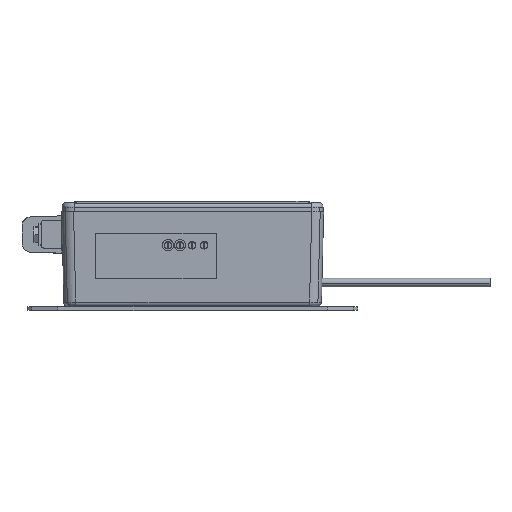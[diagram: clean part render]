
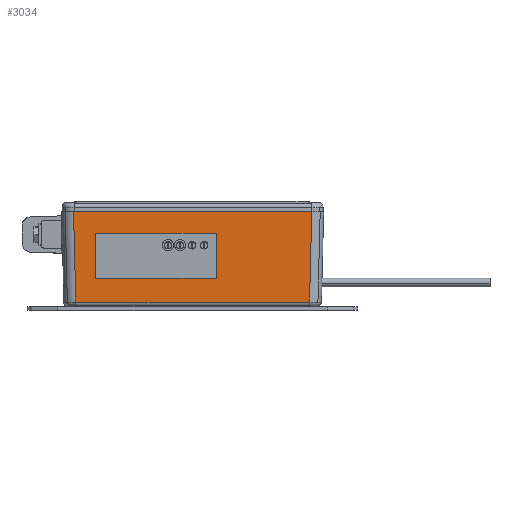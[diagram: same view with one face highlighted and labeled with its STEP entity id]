
A CAD part, top view. The second image highlights one B-rep face of the part: STEP entity #3034.
In plain terms, the highlighted planar face has unit normal (0, -0.025, 1) as drawn and (0, -1, -0.025) by its records, which use the part's own axes.
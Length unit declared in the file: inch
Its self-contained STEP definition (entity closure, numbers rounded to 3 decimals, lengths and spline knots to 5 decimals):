
#35 = AXIS2_PLACEMENT_3D ( 'NONE', #29882, #11568, #32933 ) ;
#218 = DIRECTION ( 'NONE',  ( -1., 0., 0. ) ) ;
#932 = VERTEX_POINT ( 'NONE', #29022 ) ;
#2141 = VERTEX_POINT ( 'NONE', #33442 ) ;
#2162 = AXIS2_PLACEMENT_3D ( 'NONE', #24534, #6125, #27594 ) ;
#2613 = CARTESIAN_POINT ( 'NONE',  ( 0.1898, -1.60983, -0.48935 ) ) ;
#3034 = ADVANCED_FACE ( 'NONE', ( #15071, #30348, #31298, #38395, #6878 ), #20602, .T. ) ;
#3287 = VERTEX_POINT ( 'NONE', #3391 ) ;
#3296 = VERTEX_POINT ( 'NONE', #15751 ) ;
#3391 = CARTESIAN_POINT ( 'NONE',  ( -0.2102, -1.60983, -0.48935 ) ) ;
#3683 = CARTESIAN_POINT ( 'NONE',  ( 1.97718, -1.62082, -0.04933 ) ) ;
#3986 = ORIENTED_EDGE ( 'NONE', *, *, #23053, .F. ) ;
#4119 = ORIENTED_EDGE ( 'NONE', *, *, #7400, .F. ) ;
#4493 = CARTESIAN_POINT ( 'NONE',  ( -0.0102, -1.60983, -0.48935 ) ) ;
#4778 = DIRECTION ( 'NONE',  ( 0., -1., -0.025 ) ) ;
#5163 = CARTESIAN_POINT ( 'NONE',  ( -2.1752, -1.62205, 0. ) ) ;
#5200 = VECTOR ( 'NONE', #9406, 39.37008 ) ;
#5300 = EDGE_LOOP ( 'NONE', ( #29110, #8611 ) ) ;
#5689 = DIRECTION ( 'NONE',  ( 0., -1., -0.025 ) ) ;
#6125 = DIRECTION ( 'NONE',  ( 0., -1., -0.025 ) ) ;
#6179 = EDGE_CURVE ( 'NONE', #932, #38535, #16824, .T. ) ;
#6444 = DIRECTION ( 'NONE',  ( -1., 0., 0. ) ) ;
#6506 = AXIS2_PLACEMENT_3D ( 'NONE', #24075, #5689, #27161 ) ;
#6729 = DIRECTION ( 'NONE',  ( -0.025, 0.025, -0.999 ) ) ;
#6774 = LINE ( 'NONE', #15534, #38298 ) ;
#6878 = FACE_OUTER_BOUND ( 'NONE', #35936, .T. ) ;
#6901 = VECTOR ( 'NONE', #6729, 39.37008 ) ;
#7400 = EDGE_CURVE ( 'NONE', #28311, #9149, #31982, .T. ) ;
#8394 = DIRECTION ( 'NONE',  ( 0., -1., -0.025 ) ) ;
#8611 = ORIENTED_EDGE ( 'NONE', *, *, #31483, .F. ) ;
#9149 = VERTEX_POINT ( 'NONE', #4493 ) ;
#9243 = EDGE_LOOP ( 'NONE', ( #4119, #3986 ) ) ;
#9406 = DIRECTION ( 'NONE',  ( -0.025, -0.025, 0.999 ) ) ;
#9744 = EDGE_LOOP ( 'NONE', ( #18241, #31520 ) ) ;
#9889 = CIRCLE ( 'NONE', #35, 0.0645 ) ;
#10801 = VERTEX_POINT ( 'NONE', #35257 ) ;
#11323 = AXIS2_PLACEMENT_3D ( 'NONE', #26838, #8394, #29835 ) ;
#11568 = DIRECTION ( 'NONE',  ( 0., -1., -0.025 ) ) ;
#11882 = EDGE_CURVE ( 'NONE', #33210, #21240, #6774, .T. ) ;
#12422 = EDGE_CURVE ( 'NONE', #3296, #12777, #25041, .T. ) ;
#12500 = CARTESIAN_POINT ( 'NONE',  ( -1.97803, -1.62166, -0.01531 ) ) ;
#12777 = VERTEX_POINT ( 'NONE', #29227 ) ;
#12890 = DIRECTION ( 'NONE',  ( 0., -1., -0.025 ) ) ;
#13482 = CARTESIAN_POINT ( 'NONE',  ( 0.1898, -1.60822, -0.55383 ) ) ;
#13628 = VECTOR ( 'NONE', #6444, 39.37008 ) ;
#14043 = ORIENTED_EDGE ( 'NONE', *, *, #20839, .F. ) ;
#15071 = FACE_BOUND ( 'NONE', #28433, .T. ) ;
#15534 = CARTESIAN_POINT ( 'NONE',  ( -1.0876, -1.58465, -1.49803 ) ) ;
#15751 = CARTESIAN_POINT ( 'NONE',  ( -0.4102, -1.60661, -0.61831 ) ) ;
#15897 = CIRCLE ( 'NONE', #33610, 0.0645 ) ;
#16605 = DIRECTION ( 'NONE',  ( 0., 0.025, -1. ) ) ;
#16824 = CIRCLE ( 'NONE', #16966, 0.0645 ) ;
#16966 = AXIS2_PLACEMENT_3D ( 'NONE', #13482, #34837, #16605 ) ;
#17124 = CARTESIAN_POINT ( 'NONE',  ( -0.0102, -1.60822, -0.55383 ) ) ;
#18097 = EDGE_CURVE ( 'NONE', #10801, #2141, #38900, .T. ) ;
#18241 = ORIENTED_EDGE ( 'NONE', *, *, #21773, .F. ) ;
#19943 = AXIS2_PLACEMENT_3D ( 'NONE', #5163, #35728, #26781 ) ;
#20190 = DIRECTION ( 'NONE',  ( 0., 0.025, -1. ) ) ;
#20283 = ORIENTED_EDGE ( 'NONE', *, *, #12422, .F. ) ;
#20602 = PLANE ( 'NONE',  #19943 ) ;
#20839 = EDGE_CURVE ( 'NONE', #12777, #3296, #15897, .T. ) ;
#21136 = AXIS2_PLACEMENT_3D ( 'NONE', #31200, #12890, #34244 ) ;
#21240 = VERTEX_POINT ( 'NONE', #21797 ) ;
#21767 = CARTESIAN_POINT ( 'NONE',  ( 2.1752, -1.62205, 0. ) ) ;
#21773 = EDGE_CURVE ( 'NONE', #31502, #3287, #32537, .T. ) ;
#21797 = CARTESIAN_POINT ( 'NONE',  ( -1.94101, -1.58465, -1.49803 ) ) ;
#23053 = EDGE_CURVE ( 'NONE', #9149, #28311, #35825, .T. ) ;
#23168 = CARTESIAN_POINT ( 'NONE',  ( -0.4102, -1.60822, -0.55383 ) ) ;
#23460 = ORIENTED_EDGE ( 'NONE', *, *, #33771, .F. ) ;
#24075 = CARTESIAN_POINT ( 'NONE',  ( -0.4102, -1.60822, -0.55383 ) ) ;
#24534 = CARTESIAN_POINT ( 'NONE',  ( -0.0102, -1.60822, -0.55383 ) ) ;
#25041 = CIRCLE ( 'NONE', #6506, 0.0645 ) ;
#26262 = DIRECTION ( 'NONE',  ( 0., 0.025, -1. ) ) ;
#26781 = DIRECTION ( 'NONE',  ( 0., 0.025, -1. ) ) ;
#26838 = CARTESIAN_POINT ( 'NONE',  ( 0.1898, -1.60822, -0.55383 ) ) ;
#26868 = CARTESIAN_POINT ( 'NONE',  ( -0.0102, -1.60661, -0.61831 ) ) ;
#27000 = AXIS2_PLACEMENT_3D ( 'NONE', #17124, #38363, #20190 ) ;
#27161 = DIRECTION ( 'NONE',  ( 0., 0.025, -1. ) ) ;
#27342 = CARTESIAN_POINT ( 'NONE',  ( 1.94101, -1.58465, -1.49803 ) ) ;
#27594 = DIRECTION ( 'NONE',  ( 0., 0.025, -1. ) ) ;
#28311 = VERTEX_POINT ( 'NONE', #26868 ) ;
#28433 = EDGE_LOOP ( 'NONE', ( #20283, #14043 ) ) ;
#29022 = CARTESIAN_POINT ( 'NONE',  ( 0.1898, -1.60661, -0.61831 ) ) ;
#29110 = ORIENTED_EDGE ( 'NONE', *, *, #6179, .F. ) ;
#29227 = CARTESIAN_POINT ( 'NONE',  ( -0.4102, -1.60983, -0.48935 ) ) ;
#29835 = DIRECTION ( 'NONE',  ( 0., 0.025, -1. ) ) ;
#29882 = CARTESIAN_POINT ( 'NONE',  ( -0.2102, -1.60822, -0.55383 ) ) ;
#30348 = FACE_BOUND ( 'NONE', #9744, .T. ) ;
#30605 = ORIENTED_EDGE ( 'NONE', *, *, #18097, .T. ) ;
#31200 = CARTESIAN_POINT ( 'NONE',  ( -0.2102, -1.60822, -0.55383 ) ) ;
#31298 = FACE_BOUND ( 'NONE', #9243, .T. ) ;
#31327 = LINE ( 'NONE', #3683, #6901 ) ;
#31483 = EDGE_CURVE ( 'NONE', #38535, #932, #35727, .T. ) ;
#31502 = VERTEX_POINT ( 'NONE', #39095 ) ;
#31520 = ORIENTED_EDGE ( 'NONE', *, *, #32535, .F. ) ;
#31903 = ORIENTED_EDGE ( 'NONE', *, *, #11882, .F. ) ;
#31982 = CIRCLE ( 'NONE', #27000, 0.0645 ) ;
#32535 = EDGE_CURVE ( 'NONE', #3287, #31502, #9889, .T. ) ;
#32537 = CIRCLE ( 'NONE', #21136, 0.0645 ) ;
#32933 = DIRECTION ( 'NONE',  ( 0., 0.025, -1. ) ) ;
#33210 = VERTEX_POINT ( 'NONE', #27342 ) ;
#33442 = CARTESIAN_POINT ( 'NONE',  ( -1.97841, -1.62205, 0. ) ) ;
#33610 = AXIS2_PLACEMENT_3D ( 'NONE', #23168, #4778, #26262 ) ;
#33771 = EDGE_CURVE ( 'NONE', #10801, #33210, #31327, .T. ) ;
#34244 = DIRECTION ( 'NONE',  ( 0., 0.025, -1. ) ) ;
#34837 = DIRECTION ( 'NONE',  ( 0., -1., -0.025 ) ) ;
#35257 = CARTESIAN_POINT ( 'NONE',  ( 1.97841, -1.62205, 0. ) ) ;
#35727 = CIRCLE ( 'NONE', #11323, 0.0645 ) ;
#35728 = DIRECTION ( 'NONE',  ( 0., -1., -0.025 ) ) ;
#35825 = CIRCLE ( 'NONE', #2162, 0.0645 ) ;
#35892 = EDGE_CURVE ( 'NONE', #21240, #2141, #37664, .T. ) ;
#35936 = EDGE_LOOP ( 'NONE', ( #23460, #30605, #38016, #31903 ) ) ;
#37664 = LINE ( 'NONE', #12500, #5200 ) ;
#38016 = ORIENTED_EDGE ( 'NONE', *, *, #35892, .F. ) ;
#38298 = VECTOR ( 'NONE', #218, 39.37008 ) ;
#38363 = DIRECTION ( 'NONE',  ( 0., -1., -0.025 ) ) ;
#38395 = FACE_BOUND ( 'NONE', #5300, .T. ) ;
#38535 = VERTEX_POINT ( 'NONE', #2613 ) ;
#38900 = LINE ( 'NONE', #21767, #13628 ) ;
#39095 = CARTESIAN_POINT ( 'NONE',  ( -0.2102, -1.60661, -0.61831 ) ) ;
